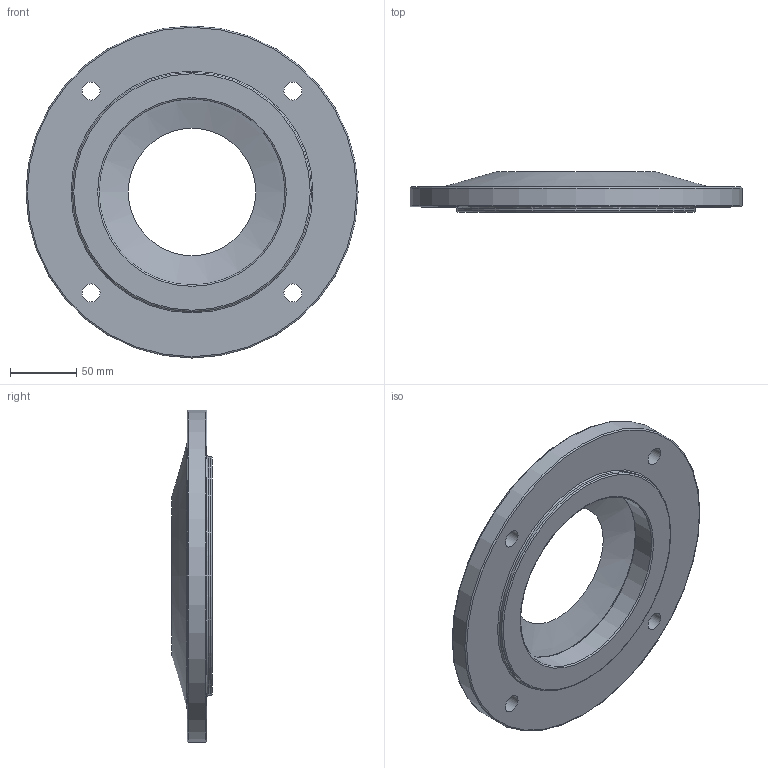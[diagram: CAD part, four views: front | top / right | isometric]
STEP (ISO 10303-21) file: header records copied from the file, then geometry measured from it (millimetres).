
FILE_DESCRIPTION((''),'2;1');
FILE_NAME('D:\PAWEŁ\ZLECENIA\DualSystem\001 Modele\DKAB50_\DK_50_STEP\AF_F_50.stp','2011-11-27T22:38:35',('Pawe'),(''),'Autodesk Inventor 2009','Autodesk Inventor 2009','');
FILE_SCHEMA(('AUTOMOTIVE_DESIGN { 1 0 10303 214 1 1 1 1 }'));
Length unit declared in the file: millimetre
Products named in the file (1): AF_F_50
Bounding box: 250 x 30.5 x 250 mm (x, y, z)
Volume: 600682.9 mm3; surface area: 125330.8 mm2
Topology: 1 solids, 1 shells, 21 faces, 45 edges, 29 vertices
Faces by surface type: bspline 6, plane 5, torus 5, cylinder 3, cone 2
Full cylindrical faces by diameter (mm): 140 x1, 180 x1, 250 x1
Entity records: 624 total; most frequent: CARTESIAN_POINT 210, DIRECTION 82, ORIENTED_EDGE 50, EDGE_LOOP 50, AXIS2_PLACEMENT_3D 41, FACE_BOUND 29, VERTEX_POINT 25, CIRCLE 25
